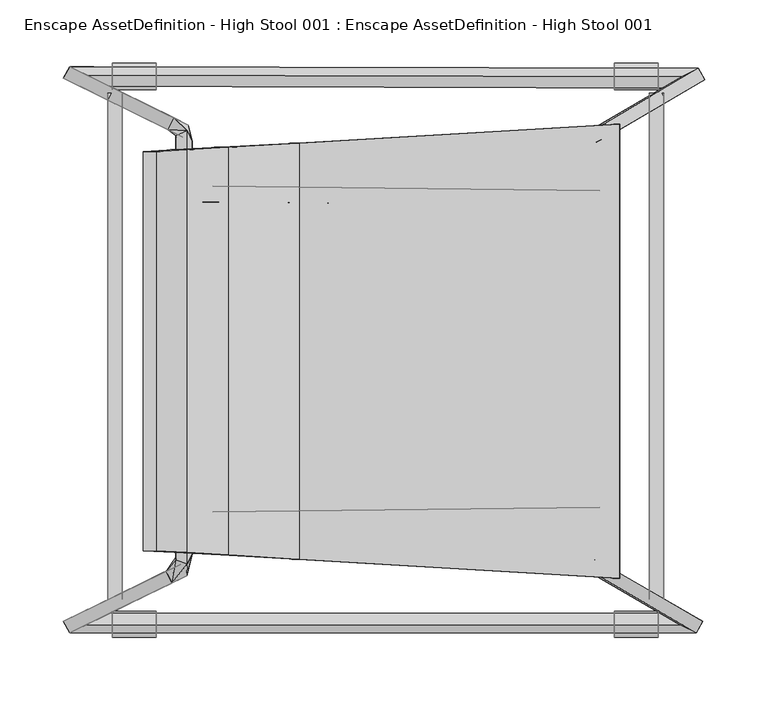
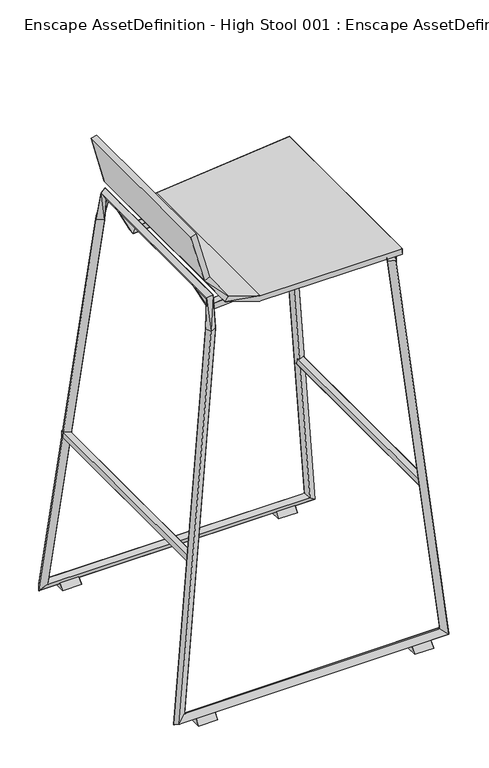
"""IFC4 building model written with IfcOpenShell, lengths in millimetres: geographic element geometry, Enscape AssetDefinition - High Stool 001 : Enscape AssetDefinition - High Stool 001."""

from ifc_helpers import new_model, si_unit, origin, place, context, project, spatial, triangles, source, transform, mapped, element, save


def enscape_assetdefinition_high_stool_001_enscape_ac28e651(model_context):
    return source(origin(), model_context, "Body", "Tessellation", [
        triangles([(167.7704826, 165.898413, 748.1110949), (176.4872289, -177.9634832, 745.3354649), (178.1004298, 176.5341918, 748.7158545), (177.1778844, -177.8975352, 732.1599609), (178.7451216, 176.5551935, 735.5383158), (166.9419176, -167.9014339, 731.716238), (166.2512621, -167.9683993, 744.8917419), (168.4141933, 165.9194146, 734.9337015), (-167.2017673, -184.0474869, 723.6242174), (-252.9136504, -214.2966398, 8.1170089), (-247.8611245, -223.2882058, 13.1425379), (-234.5906409, -216.864361, 24.6988558), (247.496303, -223.2812113, 14.3549412), (162.4551094, -175.1618737, 737.9851141), (234.3507754, -216.8793673, 25.8582849), (174.2852921, -180.7991023, 739.509367), (166.8939373, -165.8734509, 737.8891897), (252.4288871, -214.2786358, 9.3713927), (239.2833414, -207.877791, 20.8757334), (178.7241199, -171.5116423, 739.4133699), (-239.6431668, -207.872795, 19.6733245), (-150.9267796, -161.2707158, 770.8310017), (-154.7539079, -169.021896, 780.0634323), (-155.4185658, -178.3432929, 721.9850006), (-159.9043566, -169.0768527, 721.9850006), (-171.6875763, -174.7810467, 723.6242174), (-154.7539079, 173.5926381, 780.0634323), (-170.3062471, 174.5841474, 723.6471811), (-163.9873559, 169.7585335, 776.2362677), (-165.7295098, 183.8066041, 723.6471811), (-252.7757046, 215.5140255, 8.1020156), (-154.0082776, 177.9884817, 721.9629089), (-150.9267796, 164.9398959, 770.8310017), (254.0800581, 214.0877317, 8.8086687), (240.9535156, 207.5989018, 20.2570393), (-239.5372139, 208.9442412, 19.5823712), (163.7634597, 174.0514219, 741.1015663), (235.9199747, 216.5605096, 25.3415378), (180.0564514, 170.5341402, 742.5848333), (168.2772649, 164.7989707, 741.0326752), (-234.3717589, 217.873856, 24.6878599), (249.0465536, 223.0493214, 13.8931688), (175.5426826, 179.7865914, 742.6538698), (-158.5850149, 168.7670242, 721.9629089), (-247.6102495, 224.4436403, 13.2065056), (-160.1602458, 161.1057731, 767.0028196), (-160.1602458, -157.8363869, 767.0028196), (-163.9873559, -165.5875671, 776.2362677), (221.6160331, 203.2630473, 297.4497401), (210.3965326, -196.9661569, 297.4497401), (210.3965326, 203.2630473, 308.5172876), (210.3965326, 203.2630473, 297.4497401), (210.3965326, -196.9661569, 308.5172876), (221.6160331, -196.9661569, 308.5172876), (221.6160331, -196.9661569, 297.4497401), (221.6160331, 203.2630473, 308.5172876), (-217.5860102, -196.9661569, 302.1684201), (-217.5860102, -196.9661569, 313.236985), (-217.5860102, 203.2630473, 302.1684201), (-206.3665097, -196.9661569, 313.236985), (-217.5860102, 203.2630473, 313.236985), (-206.3665097, 203.2630473, 313.236985), (-206.3665097, -196.9661569, 302.1684201), (-206.3665097, 203.2630473, 302.1684201), (-122.2388959, -161.8784004, 762.2462059), (-165.0418519, -159.9023764, 805.9707172), (-155.2436673, -159.9023764, 810.5004553), (-67.5267967, -165.2277417, 734.6487625), (-128.5258123, -161.8784004, 753.4715235), (-128.5258123, 160.5060822, 753.4715235), (-165.0418519, 158.5310393, 805.9707172), (-189.8496582, 157.0997495, 898.2812891), (-179.4197715, 157.0997495, 901.0649128), (-189.8496582, -158.4720676, 898.2812891), (-155.2436673, 158.5310393, 810.5004553), (-179.4197715, -158.4720676, 901.0649128), (-66.2664176, -165.2277417, 745.3694744), (186.990058, -180.1823885, 746.2640419), (186.4922868, -180.1823885, 757.047686), (186.4922868, 178.8110696, 757.047686), (-122.2388959, 160.5060822, 762.2462059), (-67.5267967, 163.8554418, 734.6487625), (-66.2664176, 163.8554418, 745.3694744), (186.990058, 178.8110696, 746.2640419), (217.3511227, 206.4215027, 0.0), (217.3511227, 216.7194388, 12.2919562), (182.4692584, 227.0173749, 0.0), (182.4692584, 206.4215027, 0.0), (182.4692584, 216.7194388, 12.2919562), (217.3511227, 227.0173749, 0.0), (-179.231847, 206.4215027, 0.0), (-179.231847, 216.7194388, 12.2919562), (-214.1127302, 216.7194388, 12.2919562), (-214.1127302, 206.4215027, 0.0), (-214.1127302, 227.0173749, 0.0), (-179.231847, 227.0173749, 0.0), (-214.1127302, -226.9444143, 0.0), (-214.1127302, -216.6464782, 12.2919562), (-214.1127302, -206.3485421, 0.0), (-179.231847, -226.9444143, 0.0), (-179.231847, -216.6464782, 12.2919562), (-179.231847, -206.3485421, 0.0), (217.3511227, -226.9444143, 0.0), (182.4692584, -226.9444143, 0.0), (182.4692584, -206.3485421, 0.0), (182.4692584, -216.6464782, 12.2919562), (217.3511227, -216.6464782, 12.2919562), (217.3511227, -206.3485421, 0.0), (-154.3481006, -126.2249353, 778.2243731), (-154.2861312, -115.0464297, 778.1623856), (-130.0890254, -115.2583172, 730.766732), (171.2587871, -108.9514257, 748.1110949), (171.2587871, -111.561141, 734.9337015), (-161.593534, -126.2309215, 770.8039684), (-161.5315829, -115.0524341, 770.7419809), (-135.6832787, -115.2683184, 718.8185514), (171.2587871, -124.2728924, 748.7158545), (-134.8896589, -127.8551228, 718.4566549), (171.2587871, -124.2808951, 735.5383158), (-129.2954237, -127.8451398, 730.4048355), (-154.3481006, 128.3588893, 778.2243731), (171.2587871, 111.0853797, 748.1110949), (-130.0890254, 117.3922713, 730.766732), (171.2587871, 113.6950951, 734.9337015), (-161.593534, 128.3648755, 770.8039684), (-134.8896589, 129.9890769, 718.4566549), (-161.5315829, 117.1863791, 770.7419809), (-154.2861312, 117.1803747, 778.1623856), (-135.6832787, 117.4022725, 718.8185514), (171.2587871, 126.414831, 735.5383158), (-129.2954237, 129.9790848, 730.4048355), (171.2587871, 126.4058472, 748.7158545)], [[122, 132, 131], [126, 131, 132], [132, 130, 126], [126, 130, 124], [124, 129, 126], [128, 127, 129], [129, 127, 125], [125, 126, 129], [131, 126, 125], [125, 121, 131], [123, 129, 124], [124, 122, 123], [131, 123, 122], [129, 123, 128], [121, 128, 123], [123, 131, 121], [120, 117, 112], [120, 109, 114], [118, 119, 117], [117, 120, 118], [114, 118, 120], [113, 119, 118], [118, 116, 113], [116, 118, 114], [114, 115, 116], [116, 115, 110], [111, 112, 113], [113, 116, 111], [112, 111, 120], [110, 111, 116], [109, 120, 111], [111, 110, 109], [108, 105, 106], [106, 107, 108], [103, 108, 107], [105, 104, 106], [107, 106, 104], [104, 103, 107], [102, 99, 98], [98, 101, 102], [100, 102, 101], [99, 97, 98], [101, 98, 97], [97, 100, 101], [96, 95, 93], [93, 92, 96], [91, 96, 92], [95, 94, 93], [92, 93, 94], [94, 91, 92], [90, 87, 89], [89, 86, 90], [85, 90, 86], [87, 88, 89], [86, 89, 88], [88, 85, 86], [83, 80, 84], [84, 82, 83], [81, 83, 82], [77, 83, 81], [79, 80, 83], [83, 77, 79], [80, 79, 78], [78, 84, 80], [79, 77, 68], [68, 78, 79], [82, 70, 81], [70, 82, 68], [75, 81, 70], [76, 73, 72], [75, 73, 76], [72, 74, 76], [73, 75, 71], [71, 72, 73], [70, 71, 75], [74, 72, 71], [69, 68, 77], [68, 69, 70], [71, 70, 69], [71, 66, 74], [69, 66, 71], [67, 76, 74], [74, 66, 67], [76, 67, 75], [77, 65, 69], [65, 67, 66], [66, 69, 65], [81, 65, 77], [75, 67, 65], [65, 81, 75], [63, 64, 62], [62, 60, 63], [62, 61, 58], [58, 60, 62], [58, 61, 59], [59, 57, 58], [64, 63, 57], [57, 59, 64], [55, 49, 56], [56, 54, 55], [56, 51, 53], [53, 54, 56], [53, 51, 52], [52, 50, 53], [49, 55, 50], [50, 52, 49], [47, 25, 26], [26, 48, 47], [46, 47, 48], [47, 46, 33], [32, 33, 46], [46, 44, 32], [32, 41, 45], [41, 32, 44], [42, 43, 39], [42, 45, 41], [43, 42, 38], [41, 38, 42], [38, 37, 43], [43, 37, 40], [40, 39, 43], [34, 39, 40], [39, 34, 42], [45, 42, 34], [35, 40, 37], [37, 38, 35], [40, 35, 34], [36, 35, 38], [38, 41, 36], [44, 36, 41], [31, 34, 35], [35, 36, 31], [34, 31, 45], [33, 32, 30], [45, 30, 32], [30, 45, 31], [28, 31, 36], [36, 44, 28], [31, 28, 30], [48, 29, 46], [44, 46, 29], [29, 28, 44], [30, 27, 33], [28, 29, 27], [27, 30, 28], [25, 47, 22], [33, 22, 47], [22, 33, 27], [27, 23, 22], [29, 48, 23], [23, 27, 29], [48, 26, 9], [9, 23, 48], [22, 24, 25], [23, 9, 24], [24, 22, 23], [12, 24, 9], [24, 12, 21], [21, 25, 24], [19, 17, 20], [19, 21, 12], [20, 18, 19], [21, 19, 18], [18, 20, 16], [20, 17, 14], [14, 16, 20], [15, 14, 17], [17, 19, 15], [12, 15, 19], [13, 16, 14], [14, 15, 13], [16, 13, 18], [18, 10, 21], [10, 18, 13], [25, 21, 10], [10, 26, 25], [11, 13, 15], [15, 12, 11], [13, 11, 10], [9, 11, 12], [26, 10, 11], [11, 9, 26], [7, 1, 8], [8, 6, 7], [6, 8, 5], [5, 4, 6], [4, 5, 3], [3, 2, 4], [1, 7, 2], [2, 3, 1]], closed=False),
    ])


if __name__ == "__main__":
    model = new_model("IFC4")
    model_context = context("Model", 3, world=origin())
    ifc_project = project(units=[si_unit("LENGTHUNIT", "METRE", prefix="MILLI")], contexts=[model_context])
    site = spatial("IfcSite", under=ifc_project)
    building = spatial("IfcBuilding", under=site)
    placement = place(None, origin())
    enscape_assetdefinition_high_stool_001_enscape_shape = enscape_assetdefinition_high_stool_001_enscape_ac28e651(model_context)
    element("IfcGeographicElement", 1, ObjectType="Enscape AssetDefinition - High Stool 001 : Enscape AssetDefinition - High Stool 001", at=placement, inside=building, context=model_context, shape_type="MappedRepresentation", body=[
        mapped(enscape_assetdefinition_high_stool_001_enscape_shape, transform((0.0, 0.0, 0.0), x_axis=(1.0, 0.0, 0.0), y_axis=(0.0, 1.0, 0.0), z_axis=(0.0, 0.0, 1.0))),
    ])
    save(model, "model.ifc")
